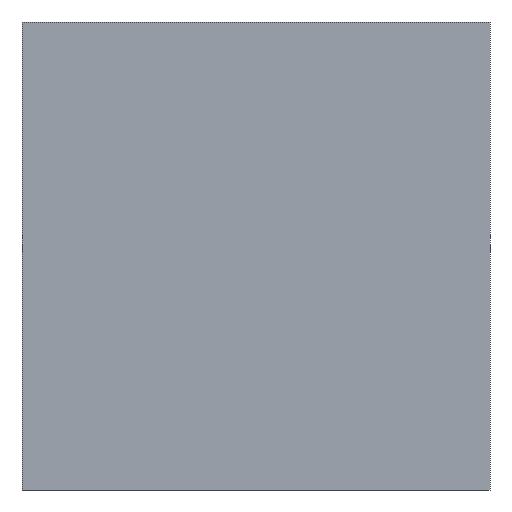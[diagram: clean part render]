
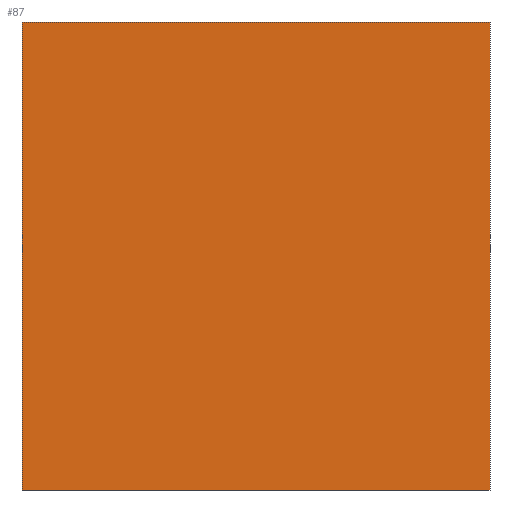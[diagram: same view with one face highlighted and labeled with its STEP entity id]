
A CAD part, left-side view. The second image highlights one B-rep face of the part: STEP entity #87.
In plain terms, the highlighted planar face has unit normal (-1, 0, 0).
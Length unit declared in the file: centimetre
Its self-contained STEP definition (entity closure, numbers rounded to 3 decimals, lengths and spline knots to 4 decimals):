
#12 = DIRECTION ( 'NONE',  ( 1., 0., 0. ) ) ;
#13 = ORIENTED_EDGE ( 'NONE', *, *, #51, .T. ) ;
#17 = ORIENTED_EDGE ( 'NONE', *, *, #38, .T. ) ;
#19 = ORIENTED_EDGE ( 'NONE', *, *, #248, .F. ) ;
#28 = DIRECTION ( 'NONE',  ( 0., 0., -1. ) ) ;
#38 = EDGE_CURVE ( 'NONE', #297, #205, #277, .T. ) ;
#39 = VECTOR ( 'NONE', #200, 100. ) ;
#44 = VECTOR ( 'NONE', #343, 100. ) ;
#51 = EDGE_CURVE ( 'NONE', #360, #297, #136, .T. ) ;
#87 = ADVANCED_FACE ( 'NONE', ( #123 ), #233, .F. ) ;
#91 = DIRECTION ( 'NONE',  ( 0., -1., 0. ) ) ;
#95 = EDGE_LOOP ( 'NONE', ( #17, #100, #19, #13 ) ) ;
#100 = ORIENTED_EDGE ( 'NONE', *, *, #160, .F. ) ;
#109 = CARTESIAN_POINT ( 'NONE',  ( 0., 1000., 0. ) ) ;
#123 = FACE_OUTER_BOUND ( 'NONE', #95, .T. ) ;
#136 = LINE ( 'NONE', #218, #159 ) ;
#142 = VERTEX_POINT ( 'NONE', #346 ) ;
#145 = CARTESIAN_POINT ( 'NONE',  ( 0., 0., 1000. ) ) ;
#149 = LINE ( 'NONE', #145, #39 ) ;
#153 = AXIS2_PLACEMENT_3D ( 'NONE', #227, #12, #351 ) ;
#159 = VECTOR ( 'NONE', #28, 100. ) ;
#160 = EDGE_CURVE ( 'NONE', #142, #205, #149, .T. ) ;
#169 = CARTESIAN_POINT ( 'NONE',  ( 0., 1000., 1000. ) ) ;
#200 = DIRECTION ( 'NONE',  ( 0., 0., -1. ) ) ;
#205 = VERTEX_POINT ( 'NONE', #241 ) ;
#211 = CARTESIAN_POINT ( 'NONE',  ( 0., 1000., 0. ) ) ;
#218 = CARTESIAN_POINT ( 'NONE',  ( 0., 1000., 1000. ) ) ;
#227 = CARTESIAN_POINT ( 'NONE',  ( 0., 1000., 1000. ) ) ;
#233 = PLANE ( 'NONE',  #153 ) ;
#241 = CARTESIAN_POINT ( 'NONE',  ( 0., 0., 0. ) ) ;
#248 = EDGE_CURVE ( 'NONE', #360, #142, #312, .T. ) ;
#277 = LINE ( 'NONE', #109, #323 ) ;
#297 = VERTEX_POINT ( 'NONE', #211 ) ;
#309 = CARTESIAN_POINT ( 'NONE',  ( 0., 1000., 1000. ) ) ;
#312 = LINE ( 'NONE', #309, #44 ) ;
#323 = VECTOR ( 'NONE', #91, 100. ) ;
#343 = DIRECTION ( 'NONE',  ( 0., -1., 0. ) ) ;
#346 = CARTESIAN_POINT ( 'NONE',  ( 0., 0., 1000. ) ) ;
#351 = DIRECTION ( 'NONE',  ( 0., 0., -1. ) ) ;
#360 = VERTEX_POINT ( 'NONE', #169 ) ;
